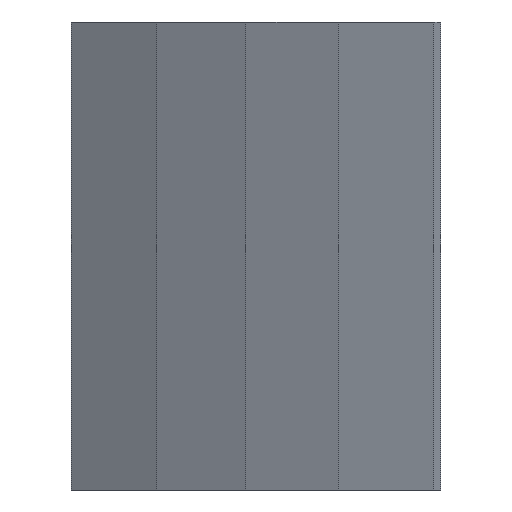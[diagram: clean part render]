
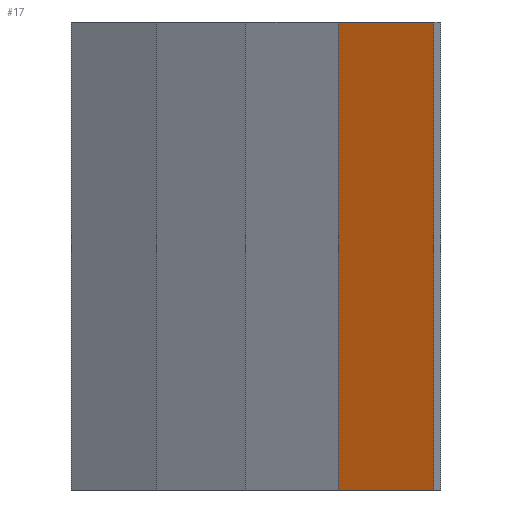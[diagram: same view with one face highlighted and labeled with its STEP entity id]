
A CAD part, left-side view. The second image highlights one B-rep face of the part: STEP entity #17.
In plain terms, the highlighted planar face has unit normal (-0.902, 0.431, 0).
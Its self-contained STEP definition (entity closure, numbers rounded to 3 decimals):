
#17 = ADVANCED_FACE('',(#18),#32,.F.);
#18 = FACE_BOUND('',#19,.F.);
#19 = EDGE_LOOP('',(#20,#55,#80,#108));
#20 = ORIENTED_EDGE('',*,*,#21,.T.);
#21 = EDGE_CURVE('',#22,#24,#26,.T.);
#22 = VERTEX_POINT('',#23);
#23 = CARTESIAN_POINT('',(-217.888,81.664,70.));
#24 = VERTEX_POINT('',#25);
#25 = CARTESIAN_POINT('',(-211.664,94.709,70.));
#26 = SURFACE_CURVE('',#27,(#31,#43),.PCURVE_S1.);
#27 = LINE('',#28,#29);
#28 = CARTESIAN_POINT('',(-217.888,81.664,70.));
#29 = VECTOR('',#30,1.);
#30 = DIRECTION('',(0.431,0.903,0.));
#31 = PCURVE('',#32,#37);
#32 = PLANE('',#33);
#33 = AXIS2_PLACEMENT_3D('',#34,#35,#36);
#34 = CARTESIAN_POINT('',(-217.888,81.664,134.));
#35 = DIRECTION('',(0.903,-0.431,0.));
#36 = DIRECTION('',(0.431,0.903,0.));
#37 = DEFINITIONAL_REPRESENTATION('',(#38),#42);
#38 = LINE('',#39,#40);
#39 = CARTESIAN_POINT('',(0.,-64.));
#40 = VECTOR('',#41,1.);
#41 = DIRECTION('',(1.,0.));
#42 = ( GEOMETRIC_REPRESENTATION_CONTEXT(2) 
PARAMETRIC_REPRESENTATION_CONTEXT() REPRESENTATION_CONTEXT('2D SPACE',''
  ) );
#43 = PCURVE('',#44,#49);
#44 = PLANE('',#45);
#45 = AXIS2_PLACEMENT_3D('',#46,#47,#48);
#46 = CARTESIAN_POINT('',(-217.888,81.664,70.));
#47 = DIRECTION('',(0.,0.,-1.));
#48 = DIRECTION('',(0.521,0.854,0.));
#49 = DEFINITIONAL_REPRESENTATION('',(#50),#54);
#50 = LINE('',#51,#52);
#51 = CARTESIAN_POINT('',(0.,0.));
#52 = VECTOR('',#53,1.);
#53 = DIRECTION('',(0.995,-0.102));
#54 = ( GEOMETRIC_REPRESENTATION_CONTEXT(2) 
PARAMETRIC_REPRESENTATION_CONTEXT() REPRESENTATION_CONTEXT('2D SPACE',''
  ) );
#55 = ORIENTED_EDGE('',*,*,#56,.T.);
#56 = EDGE_CURVE('',#24,#57,#59,.T.);
#57 = VERTEX_POINT('',#58);
#58 = CARTESIAN_POINT('',(-211.664,94.709,134.));
#59 = SURFACE_CURVE('',#60,(#63,#69),.PCURVE_S1.);
#60 = B_SPLINE_CURVE_WITH_KNOTS('',1,(#61,#62),.UNSPECIFIED.,.F.,.F.,(2,
    2),(0.,1.),.PIECEWISE_BEZIER_KNOTS.);
#61 = CARTESIAN_POINT('',(-211.664,94.709,70.));
#62 = CARTESIAN_POINT('',(-211.664,94.709,134.));
#63 = PCURVE('',#32,#64);
#64 = DEFINITIONAL_REPRESENTATION('',(#65),#68);
#65 = B_SPLINE_CURVE_WITH_KNOTS('',1,(#66,#67),.UNSPECIFIED.,.F.,.F.,(2,
    2),(0.,1.),.PIECEWISE_BEZIER_KNOTS.);
#66 = CARTESIAN_POINT('',(14.454,-64.));
#67 = CARTESIAN_POINT('',(14.454,0.));
#68 = ( GEOMETRIC_REPRESENTATION_CONTEXT(2) 
PARAMETRIC_REPRESENTATION_CONTEXT() REPRESENTATION_CONTEXT('2D SPACE',''
  ) );
#69 = PCURVE('',#70,#75);
#70 = PLANE('',#71);
#71 = AXIS2_PLACEMENT_3D('',#72,#73,#74);
#72 = CARTESIAN_POINT('',(-211.664,94.709,134.));
#73 = DIRECTION('',(0.871,-0.491,0.));
#74 = DIRECTION('',(0.491,0.871,0.));
#75 = DEFINITIONAL_REPRESENTATION('',(#76),#79);
#76 = B_SPLINE_CURVE_WITH_KNOTS('',1,(#77,#78),.UNSPECIFIED.,.F.,.F.,(2,
    2),(0.,1.),.PIECEWISE_BEZIER_KNOTS.);
#77 = CARTESIAN_POINT('',(0.,-64.));
#78 = CARTESIAN_POINT('',(0.,0.));
#79 = ( GEOMETRIC_REPRESENTATION_CONTEXT(2) 
PARAMETRIC_REPRESENTATION_CONTEXT() REPRESENTATION_CONTEXT('2D SPACE',''
  ) );
#80 = ORIENTED_EDGE('',*,*,#81,.F.);
#81 = EDGE_CURVE('',#82,#57,#84,.T.);
#82 = VERTEX_POINT('',#83);
#83 = CARTESIAN_POINT('',(-217.888,81.664,134.));
#84 = SURFACE_CURVE('',#85,(#89,#96),.PCURVE_S1.);
#85 = LINE('',#86,#87);
#86 = CARTESIAN_POINT('',(-217.888,81.664,134.));
#87 = VECTOR('',#88,1.);
#88 = DIRECTION('',(0.431,0.903,0.));
#89 = PCURVE('',#32,#90);
#90 = DEFINITIONAL_REPRESENTATION('',(#91),#95);
#91 = LINE('',#92,#93);
#92 = CARTESIAN_POINT('',(0.,0.));
#93 = VECTOR('',#94,1.);
#94 = DIRECTION('',(1.,0.));
#95 = ( GEOMETRIC_REPRESENTATION_CONTEXT(2) 
PARAMETRIC_REPRESENTATION_CONTEXT() REPRESENTATION_CONTEXT('2D SPACE',''
  ) );
#96 = PCURVE('',#97,#102);
#97 = PLANE('',#98);
#98 = AXIS2_PLACEMENT_3D('',#99,#100,#101);
#99 = CARTESIAN_POINT('',(-217.888,81.664,134.));
#100 = DIRECTION('',(0.,0.,-1.));
#101 = DIRECTION('',(0.521,0.854,0.));
#102 = DEFINITIONAL_REPRESENTATION('',(#103),#107);
#103 = LINE('',#104,#105);
#104 = CARTESIAN_POINT('',(0.,0.));
#105 = VECTOR('',#106,1.);
#106 = DIRECTION('',(0.995,-0.102));
#107 = ( GEOMETRIC_REPRESENTATION_CONTEXT(2) 
PARAMETRIC_REPRESENTATION_CONTEXT() REPRESENTATION_CONTEXT('2D SPACE',''
  ) );
#108 = ORIENTED_EDGE('',*,*,#109,.F.);
#109 = EDGE_CURVE('',#22,#82,#110,.T.);
#110 = SURFACE_CURVE('',#111,(#114,#120),.PCURVE_S1.);
#111 = B_SPLINE_CURVE_WITH_KNOTS('',1,(#112,#113),.UNSPECIFIED.,.F.,.F.,
  (2,2),(0.,1.),.PIECEWISE_BEZIER_KNOTS.);
#112 = CARTESIAN_POINT('',(-217.888,81.664,70.));
#113 = CARTESIAN_POINT('',(-217.888,81.664,134.));
#114 = PCURVE('',#32,#115);
#115 = DEFINITIONAL_REPRESENTATION('',(#116),#119);
#116 = B_SPLINE_CURVE_WITH_KNOTS('',1,(#117,#118),.UNSPECIFIED.,.F.,.F.,
  (2,2),(0.,1.),.PIECEWISE_BEZIER_KNOTS.);
#117 = CARTESIAN_POINT('',(0.,-64.));
#118 = CARTESIAN_POINT('',(0.,0.));
#119 = ( GEOMETRIC_REPRESENTATION_CONTEXT(2) 
PARAMETRIC_REPRESENTATION_CONTEXT() REPRESENTATION_CONTEXT('2D SPACE',''
  ) );
#120 = PCURVE('',#121,#126);
#121 = PLANE('',#122);
#122 = AXIS2_PLACEMENT_3D('',#123,#124,#125);
#123 = CARTESIAN_POINT('',(-215.57,80.728,134.));
#124 = DIRECTION('',(0.375,0.927,-0.));
#125 = DIRECTION('',(-0.927,0.375,0.));
#126 = DEFINITIONAL_REPRESENTATION('',(#127),#130);
#127 = B_SPLINE_CURVE_WITH_KNOTS('',1,(#128,#129),.UNSPECIFIED.,.F.,.F.,
  (2,2),(0.,1.),.PIECEWISE_BEZIER_KNOTS.);
#128 = CARTESIAN_POINT('',(2.5,-64.));
#129 = CARTESIAN_POINT('',(2.5,0.));
#130 = ( GEOMETRIC_REPRESENTATION_CONTEXT(2) 
PARAMETRIC_REPRESENTATION_CONTEXT() REPRESENTATION_CONTEXT('2D SPACE',''
  ) );
